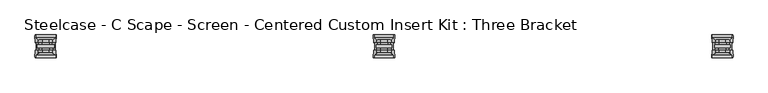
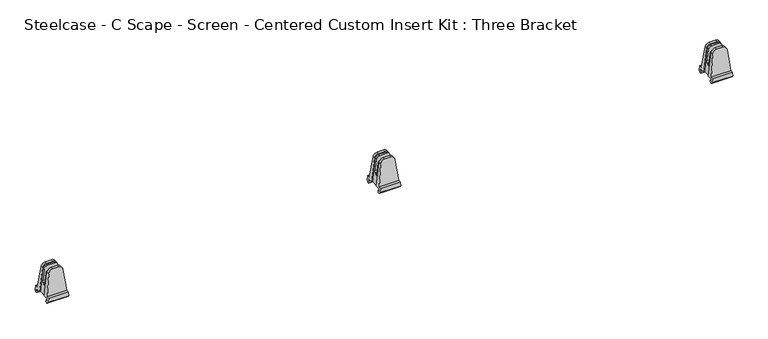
"""IFC4 building model written with IfcOpenShell, lengths in millimetres: furniture geometry, Steelcase - C Scape - Screen - Centered Custom Insert Kit : Three Bracket."""

from ifc_helpers import new_model, si_unit, frame, origin, place, context, project, spatial, circle_curve, ellipse_curve, source, transform, mapped, element, save
from ifc_brep_helpers import plane_surface, cylinder_surface, advanced_brep


def steelcase_c_scape_screen_centered_custom_insert_kit_three_306cf990(model_context):
    return source(origin(), model_context, "Body", "AdvancedBrep", [
        advanced_brep(
        [(905.1411595, -3.1752569, 793.5976353), (912.7449451, -3.1752569, 793.5976353), (920.39117, -3.1752569, 793.5976353), (920.39117, 3.17474, 793.5976353), (912.7449451, 3.17474, 793.5976353), (905.1411595, 3.17474, 793.5976353), (894.8299677, -3.1752569, 784.4759275), (887.3863978, -3.1752569, 723.9), (889.4703023, -3.1752569, 723.9), (895.7288736, -3.1752569, 783.4463283), (903.7307285, -3.1752569, 790.6512308), (923.3286053, -3.1752569, 790.6512308), (929.6441278, -3.1752569, 784.9620449), (936.0332521, -3.1752569, 723.9), (938.1459317, -3.1752569, 723.9), (930.7023617, -3.1752569, 784.4759275), (887.3863978, 10.1600734, 723.9), (938.1459317, 10.1600734, 723.9), (936.0332521, -22.2252569, 723.9), (938.1459317, -22.2250614, 723.9), (938.1459317, -35.5603917, 723.9), (887.3863978, -35.5603917, 723.9), (887.3863978, -22.2250614, 723.9), (889.4703023, -22.2250614, 723.9), (886.9177499, 10.1600734, 720.086134), (938.6145796, 10.1600734, 720.086134), (886.9177499, 6.7312129, 720.086134), (938.6145796, 6.7312129, 720.086134), (886.3871568, 6.7312129, 715.7681562), (939.1451727, 6.7312129, 715.7681562), (886.1765087, 9.1438564, 714.375), (939.3133815, 9.1438564, 714.375), (886.2159658, 11.8111354, 714.375), (939.3133815, 11.8111354, 714.375), (886.6841404, 15.6202052, 718.1850145), (938.8481891, 15.6202052, 718.1850145), (888.0324785, 15.6202052, 729.1578186), (937.499851, 15.6202052, 729.1578186), (888.0324785, 8.8135415, 729.1578186), (937.499851, 8.8135415, 729.1578186), (894.8299677, 3.9729344, 784.4759275), (930.7023617, 3.9729344, 784.4759275), (888.0324785, -34.2138598, 729.1578186), (937.499851, -34.2138598, 729.1578186), (930.7023617, -29.3732527, 784.4759275), (920.39117, -28.5750583, 793.5976353), (912.7449451, -28.5750583, 793.5976353), (905.1411595, -28.5750583, 793.5976353), (894.8299677, -29.3732527, 784.4759275), (888.0324785, -41.0205235, 729.1578186), (937.499851, -41.0205235, 729.1578186), (886.6841404, -41.0205235, 718.1850145), (938.8481891, -41.0205235, 718.1850145), (886.1765087, -37.2114537, 714.375), (939.3133815, -37.2114537, 714.375), (886.2159658, -34.5441746, 714.375), (939.3133815, -34.5441746, 714.375), (886.3871568, -32.1315312, 715.7681562), (939.1451727, -32.1315312, 715.7681562), (886.9177499, -32.1315312, 720.086134), (938.6145796, -32.1315312, 720.086134), (886.9177499, -35.5603917, 720.086134), (938.6145796, -35.5603917, 720.086134), (905.1411595, -22.2250614, 793.5976353), (912.7449451, -22.2250614, 793.5976353), (920.39117, -22.2250614, 793.5976353), (930.7023617, -22.2250614, 784.4759275), (930.1862917, -22.2250614, 779.780484), (922.4046145, -22.2250614, 786.79042), (902.8780312, -22.2250614, 786.79042), (895.3698008, -22.2250614, 780.0299789), (894.8299677, -22.2250614, 784.4759275), (902.8780312, -17.4500569, 786.79042), (922.4046145, -17.4500569, 786.79042), (930.1862917, -17.4500569, 779.780484), (933.4712458, -17.4500569, 748.3855694), (892.0438394, -17.4500569, 748.3855694), (895.3698008, -17.4500569, 780.0299789), (892.0438394, -7.9504569, 748.3855694), (895.7288736, -7.9504569, 783.4463283), (929.6441278, -7.9504569, 784.9620449), (933.4712458, -7.9504569, 748.3855694), (903.7307285, -7.9504569, 790.6512308), (923.3286053, -7.9504569, 790.6512308)],
        [
            (0, 1),
            (1, 2),
            (2, 3),
            (3, 4),
            (4, 5),
            (5, 0),
            (0, 6, circle_curve(frame((905.1411595, -3.1752569, 783.2088883), z_axis=(0.0, -1.0, 0.0), x_axis=(-1.0, 0.0, 0.0)), 10.388747)),
            (6, 7),
            (7, 8),
            (8, 9),
            (9, 10, circle_curve(frame((903.7307285, -3.1752569, 782.6052995), z_axis=(0.0, 1.0, 0.0), x_axis=(1.0, 0.0, 0.0)), 8.0459313)),
            (10, 11),
            (11, 12, circle_curve(frame((923.3286053, -3.1752569, 784.3012308), z_axis=(0.0, 1.0, 0.0), x_axis=(1.0, 0.0, 0.0)), 6.35)),
            (12, 13),
            (13, 14),
            (14, 15),
            (15, 2, circle_curve(frame((920.39117, -3.1752569, 783.2088883), z_axis=(0.0, -1.0, 0.0), x_axis=(1.0, 0.0, 0.0)), 10.388747)),
            (16, 17),
            (17, 14),
            (13, 18),
            (18, 19),
            (19, 20),
            (20, 21),
            (21, 22),
            (22, 23),
            (23, 8),
            (7, 16),
            (16, 24),
            (24, 25),
            (25, 17),
            (24, 26),
            (26, 27),
            (27, 25),
            (26, 28),
            (28, 29),
            (29, 27),
            (30, 31),
            (31, 29),
            (28, 30),
            (30, 32),
            (32, 33),
            (33, 31),
            (32, 34),
            (34, 35),
            (35, 33),
            (34, 36),
            (36, 37),
            (37, 35),
            (36, 38),
            (38, 39),
            (39, 37),
            (38, 40),
            (40, 5, ellipse_curve(frame((905.1411595, 4.0838066, 783.2088883), z_axis=(0.0, 0.9961932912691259, 0.08717182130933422), x_axis=(0.0, 0.08717182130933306, -0.9961932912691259)), 10.428445, 10.388747)),
            (3, 41, ellipse_curve(frame((920.39117, 4.0838066, 783.2088883), z_axis=(0.0, 0.9961932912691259, 0.08717182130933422), x_axis=(0.0, 0.08717182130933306, -0.9961932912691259)), 10.428445, 10.388747)),
            (41, 39),
            (42, 43),
            (43, 44),
            (44, 45, ellipse_curve(frame((920.39117, -29.4841248, 783.2088883), z_axis=(0.0, -0.9961932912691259, 0.08717182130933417), x_axis=(0.0, 0.08717182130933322, 0.996193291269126)), 10.428445, 10.388747)),
            (45, 46),
            (46, 47),
            (47, 48, ellipse_curve(frame((905.1411595, -29.4841248, 783.2088883), z_axis=(0.0, -0.9961932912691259, 0.08717182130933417), x_axis=(0.0, 0.08717182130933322, 0.996193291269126)), 10.428445, 10.388747)),
            (48, 42),
            (42, 49),
            (49, 50),
            (50, 43),
            (49, 51),
            (51, 52),
            (52, 50),
            (53, 54),
            (54, 52),
            (51, 53),
            (53, 55),
            (55, 56),
            (56, 54),
            (55, 57),
            (57, 58),
            (58, 56),
            (57, 59),
            (59, 60),
            (60, 58),
            (59, 61),
            (61, 62),
            (62, 60),
            (61, 21),
            (20, 62),
            (63, 64),
            (64, 65),
            (65, 66, circle_curve(frame((920.39117, -22.2250614, 783.2088883), z_axis=(0.0, 1.0, 0.0), x_axis=(1.0, 0.0, 0.0)), 10.388747)),
            (66, 19),
            (18, 67),
            (67, 68, circle_curve(frame((922.4046145, -22.2250614, 778.9662613), z_axis=(0.0, -1.0, 0.0), x_axis=(1.0, 0.0, 0.0)), 7.8241587)),
            (68, 69),
            (69, 70, circle_curve(frame((902.8780312, -22.2250614, 779.2408321), z_axis=(0.0, -1.0, 0.0), x_axis=(1.0, 0.0, 0.0)), 7.5495878)),
            (70, 23),
            (22, 71),
            (71, 63, circle_curve(frame((905.1411595, -22.2250614, 783.2088883), z_axis=(0.0, 1.0, 0.0), x_axis=(-1.0, 0.0, 0.0)), 10.388747)),
            (45, 65),
            (63, 47),
            (6, 40),
            (48, 71),
            (15, 41),
            (44, 66),
            (72, 73),
            (73, 74, circle_curve(frame((922.4046145, -17.4500569, 778.9662613), z_axis=(0.0, 1.0, 0.0), x_axis=(1.0, 0.0, 0.0)), 7.8241587)),
            (74, 75),
            (75, 76),
            (76, 77),
            (77, 72, circle_curve(frame((902.8780312, -17.4500569, 779.2408321), z_axis=(0.0, 1.0, 0.0), x_axis=(1.0, 0.0, 0.0)), 7.5495878)),
            (77, 70),
            (69, 72),
            (76, 78),
            (78, 79),
            (79, 9),
            (12, 80),
            (80, 81),
            (81, 75),
            (74, 67),
            (73, 68),
            (82, 79, circle_curve(frame((903.7307285, -7.9504569, 782.6052995), z_axis=(0.0, -1.0, 0.0), x_axis=(1.0, 0.0, 0.0)), 8.0459313)),
            (78, 81),
            (80, 83, circle_curve(frame((923.3286053, -7.9504569, 784.3012308), z_axis=(0.0, -1.0, 0.0), x_axis=(1.0, 0.0, 0.0)), 6.35)),
            (83, 82),
            (82, 10),
            (11, 83),
        ],
        [
            plane_surface(frame((939.3133815, 3.17474, 793.5976353), z_axis=(0.0, 0.0, 1.0), x_axis=(-1.0, 0.0, 0.0))),
            plane_surface(frame((939.3133815, -3.1752569, 793.5976353), z_axis=(0.0, -1.0, 0.0), x_axis=(-1.0, 0.0, 0.0))),
            plane_surface(frame((939.3133815, -3.1752569, 723.9), z_axis=(0.0, 0.0, -1.0), x_axis=(-1.0, 0.0, 0.0))),
            plane_surface(frame((939.3133815, 10.1600734, 723.9), z_axis=(0.0, -1.0, 0.0), x_axis=(-1.0, 0.0, 0.0))),
            plane_surface(frame((939.3133815, 10.1600734, 720.086134), z_axis=(0.0, 0.0, 1.0), x_axis=(-1.0, 0.0, 0.0))),
            plane_surface(frame((939.3133815, 6.7312129, 720.086134), z_axis=(0.0, -1.0, 0.0), x_axis=(-1.0, 0.0, 0.0))),
            plane_surface(frame((939.3133815, 6.7312129, 715.7681562), z_axis=(0.0, -0.5000581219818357, -0.8659918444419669), x_axis=(-1.0, 0.0, 0.0))),
            plane_surface(frame((939.3133815, 9.1438564, 714.375), z_axis=(0.0, 0.0, -1.0), x_axis=(-1.0, 0.0, 0.0))),
            plane_surface(frame((939.3133815, 11.8111354, 714.375), z_axis=(0.0, 0.7071944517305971, -0.7070190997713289), x_axis=(-1.0, 0.0, 0.0))),
            plane_surface(frame((939.3133815, 15.6202052, 718.1850145), z_axis=(0.0, 1.0, 0.0), x_axis=(-1.0, 0.0, 0.0))),
            plane_surface(frame((939.3133815, 15.6202052, 729.1578186), z_axis=(0.0, 0.0, 1.0), x_axis=(-1.0, 0.0, 0.0))),
            plane_surface(frame((939.3133815, 8.8135415, 729.1578186), z_axis=(0.0, 0.9961932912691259, 0.08717182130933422), x_axis=(-1.0, 0.0, 0.0))),
            plane_surface(frame((939.3133815, -28.5750583, 793.5976353), z_axis=(0.0, -0.9961932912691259, 0.08717182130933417), x_axis=(-1.0, 0.0, 0.0))),
            plane_surface(frame((939.3133815, -34.2138598, 729.1578186), z_axis=(0.0, 0.0, 1.0), x_axis=(-1.0, 0.0, 0.0))),
            plane_surface(frame((939.3133815, -41.0205235, 729.1578186), z_axis=(0.0, -1.0, 0.0), x_axis=(-1.0, 0.0, 0.0))),
            plane_surface(frame((939.3133815, -41.0205235, 718.1850145), z_axis=(0.0, -0.7071944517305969, -0.707019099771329), x_axis=(-1.0, 0.0, 0.0))),
            plane_surface(frame((939.3133815, -37.2114537, 714.375), z_axis=(0.0, 0.0, -1.0), x_axis=(-1.0, 0.0, 0.0))),
            plane_surface(frame((939.3133815, -34.5441746, 714.375), z_axis=(0.0, 0.5000581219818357, -0.8659918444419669), x_axis=(-1.0, 0.0, 0.0))),
            plane_surface(frame((939.3133815, -32.1315312, 715.7681562), z_axis=(0.0, 1.0, 0.0), x_axis=(-1.0, 0.0, 0.0))),
            plane_surface(frame((939.3133815, -32.1315312, 720.086134), z_axis=(0.0, 0.0, 1.0), x_axis=(-1.0, 0.0, 0.0))),
            plane_surface(frame((939.3133815, -35.5603917, 720.086134), z_axis=(0.0, 1.0, 0.0), x_axis=(-1.0, 0.0, 0.0))),
            plane_surface(frame((939.3133815, -22.2250614, 723.9), z_axis=(0.0, 1.0, 0.0), x_axis=(-1.0, 0.0, 0.0))),
            plane_surface(frame((939.3133815, -22.2250614, 793.5976353), z_axis=(0.0, 0.0, 1.0), x_axis=(-1.0, 0.0, 0.0))),
            plane_surface(frame((886.2159658, -43.2064559, 714.375), z_axis=(-0.9925346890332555, 0.0, 0.12196266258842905), x_axis=(0.0, 1.0, 0.0))),
            cylinder_surface(frame((905.1411595, 17.5208706, 783.2088883), z_axis=(0.0, 1.0, 0.0), x_axis=(-1.0, 0.0, 0.0)), 10.388747),
            cylinder_surface(frame((920.39117, 17.5208706, 783.2088883), z_axis=(0.0, 1.0, 0.0), x_axis=(1.0, 0.0, 0.0)), 10.388747),
            plane_surface(frame((930.7023617, -43.2064559, 784.4759275), z_axis=(0.9925346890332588, 0.0, 0.12196266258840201), x_axis=(0.0, 1.0, 0.0))),
            plane_surface(frame((910.4276191, -17.4500569, 779.2408321), z_axis=(0.0, 1.0, 0.0), x_axis=(0.0, 0.0, -1.0))),
            cylinder_surface(frame((902.8780312, -17.4500569, 779.2408321), z_axis=(0.0, -1.0, 0.0), x_axis=(1.0, 0.0, 0.0)), 7.5495878),
            plane_surface(frame((895.3698008, -22.2252569, 780.0299789), z_axis=(-0.9945218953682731, 0.0, 0.10452846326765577), x_axis=(0.0, 1.0, 0.0))),
            plane_surface(frame((936.0332521, -22.2252569, 723.9), z_axis=(0.9945704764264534, 0.0, 0.10406520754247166), x_axis=(0.0, 1.0, 0.0))),
            cylinder_surface(frame((922.4046145, -17.4500569, 778.9662613), z_axis=(0.0, -1.0, 0.0), x_axis=(1.0, 0.0, 0.0)), 7.8241587),
            plane_surface(frame((922.4046145, -22.2252569, 786.79042), z_axis=(0.0, 0.0, 1.0), x_axis=(0.0, 1.0, 0.0))),
            plane_surface(frame((911.7766598, -7.9504569, 782.6052995), z_axis=(0.0, -1.0, 0.0), x_axis=(0.0, 0.0, 1.0))),
            cylinder_surface(frame((903.7307285, -3.1752569, 782.6052995), z_axis=(0.0, -1.0, 0.0), x_axis=(1.0, 0.0, 0.0)), 8.0459313),
            cylinder_surface(frame((923.3286053, -3.1752569, 784.3012308), z_axis=(0.0, -1.0, 0.0), x_axis=(1.0, 0.0, 0.0)), 6.35),
            plane_surface(frame((923.3286053, -7.9504569, 790.6512308), z_axis=(0.0, 0.0, 1.0), x_axis=(0.0, 1.0, 0.0))),
            plane_surface(frame((933.4712458, -17.4500569, 748.3855694), z_axis=(0.0, 0.0, 1.0), x_axis=(0.0, 1.0, 0.0))),
        ],
        [
            (0, [[1, 2, 3, 4, 5, 6]]),
            (1, [[-1, 7, 8, 9, 10, 11, 12, 13, 14, 15, 16, 17, -2]]),
            (2, [[18, 19, -15, 20, 21, 22, 23, 24, 25, 26, -9, 27]]),
            (3, [[-18, 28, 29, 30]]),
            (4, [[-29, 31, 32, 33]]),
            (5, [[-32, 34, 35, 36]]),
            (6, [[37, 38, -35, 39]]),
            (7, [[-37, 40, 41, 42]]),
            (8, [[-41, 43, 44, 45]]),
            (9, [[-44, 46, 47, 48]]),
            (10, [[-47, 49, 50, 51]]),
            (11, [[-50, 52, 53, -5, -4, 54, 55]]),
            (12, [[56, 57, 58, 59, 60, 61, 62]]),
            (13, [[-56, 63, 64, 65]]),
            (14, [[-64, 66, 67, 68]]),
            (15, [[69, 70, -67, 71]]),
            (16, [[-69, 72, 73, 74]]),
            (17, [[-73, 75, 76, 77]]),
            (18, [[-76, 78, 79, 80]]),
            (19, [[-79, 81, 82, 83]]),
            (20, [[-82, 84, -23, 85]]),
            (21, [[86, 87, 88, 89, -21, 90, 91, 92, 93, 94, -25, 95, 96]]),
            (22, [[-59, 97, -87, -86, 98, -60]]),
            (23, [[99, -52, -49, -46, -43, -40, -39, -34, -31, -28, -27, -8]]),
            (23, [[100, -95, -24, -84, -81, -78, -75, -72, -71, -66, -63, -62]]),
            (24, [[-99, -7, -6, -53]]),
            (24, [[-100, -61, -98, -96]]),
            (25, [[101, -54, -3, -17]]),
            (25, [[102, -88, -97, -58]]),
            (26, [[-101, -16, -19, -30, -33, -36, -38, -42, -45, -48, -51, -55]]),
            (26, [[-102, -57, -65, -68, -70, -74, -77, -80, -83, -85, -22, -89]]),
            (27, [[103, 104, 105, 106, 107, 108]]),
            (28, [[-108, 109, -93, 110]]),
            (29, [[-109, -107, 111, 112, 113, -10, -26, -94]]),
            (30, [[-20, -14, 114, 115, 116, -105, 117, -90]]),
            (31, [[-104, 118, -91, -117]]),
            (32, [[-103, -110, -92, -118]]),
            (33, [[119, -112, 120, -115, 121, 122]]),
            (34, [[-119, 123, -11, -113]]),
            (35, [[-121, -114, -13, 124]]),
            (36, [[-122, -124, -12, -123]]),
            (37, [[-111, -106, -116, -120]]),
        ],
    ),
        advanced_brep(
        [(1743.2649563, -3.1752569, 793.5976353), (1750.8687419, -3.1752569, 793.5976353), (1758.5149668, -3.1752569, 793.5976353), (1758.5149668, 3.17474, 793.5976353), (1750.8687419, 3.17474, 793.5976353), (1743.2649563, 3.17474, 793.5976353), (1732.9537645, -3.1752569, 784.4759275), (1725.5101946, -3.1752569, 723.9), (1727.5940991, -3.1752569, 723.9), (1733.8526704, -3.1752569, 783.4463283), (1741.8545253, -3.1752569, 790.6512308), (1761.4524021, -3.1752569, 790.6512308), (1767.7679246, -3.1752569, 784.9620449), (1774.1570489, -3.1752569, 723.9), (1776.2697285, -3.1752569, 723.9), (1768.8261585, -3.1752569, 784.4759275), (1725.5101946, 10.1600734, 723.9), (1776.2697285, 10.1600734, 723.9), (1774.1570489, -22.2252569, 723.9), (1776.2697285, -22.2250614, 723.9), (1776.2697285, -35.5603917, 723.9), (1725.5101946, -35.5603917, 723.9), (1725.5101946, -22.2250614, 723.9), (1727.5940991, -22.2250614, 723.9), (1725.0415467, 10.1600734, 720.086134), (1776.7383764, 10.1600734, 720.086134), (1725.0415467, 6.7312129, 720.086134), (1776.7383764, 6.7312129, 720.086134), (1724.5109536, 6.7312129, 715.7681562), (1777.2689695, 6.7312129, 715.7681562), (1724.3003055, 9.1438564, 714.375), (1777.4371783, 9.1438564, 714.375), (1724.3397626, 11.8111354, 714.375), (1777.4371783, 11.8111354, 714.375), (1724.8079371, 15.6202052, 718.1850145), (1776.9719859, 15.6202052, 718.1850145), (1726.1562753, 15.6202052, 729.1578186), (1775.6236478, 15.6202052, 729.1578186), (1726.1562753, 8.8135415, 729.1578186), (1775.6236478, 8.8135415, 729.1578186), (1732.9537645, 3.9729344, 784.4759275), (1768.8261585, 3.9729344, 784.4759275), (1726.1562753, -34.2138598, 729.1578186), (1775.6236478, -34.2138598, 729.1578186), (1768.8261585, -29.3732527, 784.4759275), (1758.5149668, -28.5750583, 793.5976353), (1750.8687419, -28.5750583, 793.5976353), (1743.2649563, -28.5750583, 793.5976353), (1732.9537645, -29.3732527, 784.4759275), (1726.1562753, -41.0205235, 729.1578186), (1775.6236478, -41.0205235, 729.1578186), (1724.8079371, -41.0205235, 718.1850145), (1776.9719859, -41.0205235, 718.1850145), (1724.3003055, -37.2114537, 714.375), (1777.4371783, -37.2114537, 714.375), (1724.3397626, -34.5441746, 714.375), (1777.4371783, -34.5441746, 714.375), (1724.5109536, -32.1315312, 715.7681562), (1777.2689695, -32.1315312, 715.7681562), (1725.0415467, -32.1315312, 720.086134), (1776.7383764, -32.1315312, 720.086134), (1725.0415467, -35.5603917, 720.086134), (1776.7383764, -35.5603917, 720.086134), (1743.2649563, -22.2250614, 793.5976353), (1750.8687419, -22.2250614, 793.5976353), (1758.5149668, -22.2250614, 793.5976353), (1768.8261585, -22.2250614, 784.4759275), (1768.3100885, -22.2250614, 779.780484), (1760.5284113, -22.2250614, 786.79042), (1741.001828, -22.2250614, 786.79042), (1733.4935976, -22.2250614, 780.0299789), (1732.9537645, -22.2250614, 784.4759275), (1741.001828, -17.4500569, 786.79042), (1760.5284113, -17.4500569, 786.79042), (1768.3100885, -17.4500569, 779.780484), (1771.5950426, -17.4500569, 748.3855694), (1730.1676361, -17.4500569, 748.3855694), (1733.4935976, -17.4500569, 780.0299789), (1730.1676361, -7.9504569, 748.3855694), (1733.8526704, -7.9504569, 783.4463283), (1767.7679246, -7.9504569, 784.9620449), (1771.5950426, -7.9504569, 748.3855694), (1741.8545253, -7.9504569, 790.6512308), (1761.4524021, -7.9504569, 790.6512308)],
        [
            (0, 1),
            (1, 2),
            (2, 3),
            (3, 4),
            (4, 5),
            (5, 0),
            (0, 6, circle_curve(frame((1743.2649563, -3.1752569, 783.2088883), z_axis=(0.0, -1.0, 0.0), x_axis=(-1.0, 0.0, 0.0)), 10.388747)),
            (6, 7),
            (7, 8),
            (8, 9),
            (9, 10, circle_curve(frame((1741.8545253, -3.1752569, 782.6052995), z_axis=(0.0, 1.0, 0.0), x_axis=(1.0, 0.0, 0.0)), 8.0459313)),
            (10, 11),
            (11, 12, circle_curve(frame((1761.4524021, -3.1752569, 784.3012308), z_axis=(0.0, 1.0, 0.0), x_axis=(1.0, 0.0, 0.0)), 6.35)),
            (12, 13),
            (13, 14),
            (14, 15),
            (15, 2, circle_curve(frame((1758.5149668, -3.1752569, 783.2088883), z_axis=(0.0, -1.0, 0.0), x_axis=(1.0, 0.0, 0.0)), 10.388747)),
            (16, 17),
            (17, 14),
            (13, 18),
            (18, 19),
            (19, 20),
            (20, 21),
            (21, 22),
            (22, 23),
            (23, 8),
            (7, 16),
            (16, 24),
            (24, 25),
            (25, 17),
            (24, 26),
            (26, 27),
            (27, 25),
            (26, 28),
            (28, 29),
            (29, 27),
            (30, 31),
            (31, 29),
            (28, 30),
            (30, 32),
            (32, 33),
            (33, 31),
            (32, 34),
            (34, 35),
            (35, 33),
            (34, 36),
            (36, 37),
            (37, 35),
            (36, 38),
            (38, 39),
            (39, 37),
            (38, 40),
            (40, 5, ellipse_curve(frame((1743.2649563, 4.0838066, 783.2088883), z_axis=(0.0, 0.9961932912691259, 0.08717182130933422), x_axis=(0.0, 0.08717182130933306, -0.9961932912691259)), 10.428445, 10.388747)),
            (3, 41, ellipse_curve(frame((1758.5149668, 4.0838066, 783.2088883), z_axis=(0.0, 0.9961932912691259, 0.08717182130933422), x_axis=(0.0, 0.08717182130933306, -0.9961932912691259)), 10.428445, 10.388747)),
            (41, 39),
            (42, 43),
            (43, 44),
            (44, 45, ellipse_curve(frame((1758.5149668, -29.4841248, 783.2088883), z_axis=(0.0, -0.9961932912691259, 0.08717182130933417), x_axis=(0.0, 0.08717182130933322, 0.996193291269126)), 10.428445, 10.388747)),
            (45, 46),
            (46, 47),
            (47, 48, ellipse_curve(frame((1743.2649563, -29.4841248, 783.2088883), z_axis=(0.0, -0.9961932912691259, 0.08717182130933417), x_axis=(0.0, 0.08717182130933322, 0.996193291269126)), 10.428445, 10.388747)),
            (48, 42),
            (42, 49),
            (49, 50),
            (50, 43),
            (49, 51),
            (51, 52),
            (52, 50),
            (53, 54),
            (54, 52),
            (51, 53),
            (53, 55),
            (55, 56),
            (56, 54),
            (55, 57),
            (57, 58),
            (58, 56),
            (57, 59),
            (59, 60),
            (60, 58),
            (59, 61),
            (61, 62),
            (62, 60),
            (61, 21),
            (20, 62),
            (63, 64),
            (64, 65),
            (65, 66, circle_curve(frame((1758.5149668, -22.2250614, 783.2088883), z_axis=(0.0, 1.0, 0.0), x_axis=(1.0, 0.0, 0.0)), 10.388747)),
            (66, 19),
            (18, 67),
            (67, 68, circle_curve(frame((1760.5284113, -22.2250614, 778.9662613), z_axis=(0.0, -1.0, 0.0), x_axis=(1.0, 0.0, 0.0)), 7.8241587)),
            (68, 69),
            (69, 70, circle_curve(frame((1741.001828, -22.2250614, 779.2408321), z_axis=(0.0, -1.0, 0.0), x_axis=(1.0, 0.0, 0.0)), 7.5495878)),
            (70, 23),
            (22, 71),
            (71, 63, circle_curve(frame((1743.2649563, -22.2250614, 783.2088883), z_axis=(0.0, 1.0, 0.0), x_axis=(-1.0, 0.0, 0.0)), 10.388747)),
            (45, 65),
            (63, 47),
            (6, 40),
            (48, 71),
            (15, 41),
            (44, 66),
            (72, 73),
            (73, 74, circle_curve(frame((1760.5284113, -17.4500569, 778.9662613), z_axis=(0.0, 1.0, 0.0), x_axis=(1.0, 0.0, 0.0)), 7.8241587)),
            (74, 75),
            (75, 76),
            (76, 77),
            (77, 72, circle_curve(frame((1741.001828, -17.4500569, 779.2408321), z_axis=(0.0, 1.0, 0.0), x_axis=(1.0, 0.0, 0.0)), 7.5495878)),
            (77, 70),
            (69, 72),
            (76, 78),
            (78, 79),
            (79, 9),
            (12, 80),
            (80, 81),
            (81, 75),
            (74, 67),
            (73, 68),
            (82, 79, circle_curve(frame((1741.8545253, -7.9504569, 782.6052995), z_axis=(0.0, -1.0, 0.0), x_axis=(1.0, 0.0, 0.0)), 8.0459313)),
            (78, 81),
            (80, 83, circle_curve(frame((1761.4524021, -7.9504569, 784.3012308), z_axis=(0.0, -1.0, 0.0), x_axis=(1.0, 0.0, 0.0)), 6.35)),
            (83, 82),
            (82, 10),
            (11, 83),
        ],
        [
            plane_surface(frame((1777.4371783, 3.17474, 793.5976353), z_axis=(0.0, 0.0, 1.0), x_axis=(-1.0, 0.0, 0.0))),
            plane_surface(frame((1777.4371783, -3.1752569, 793.5976353), z_axis=(0.0, -1.0, 0.0), x_axis=(-1.0, 0.0, 0.0))),
            plane_surface(frame((1777.4371783, -3.1752569, 723.9), z_axis=(0.0, 0.0, -1.0), x_axis=(-1.0, 0.0, 0.0))),
            plane_surface(frame((1777.4371783, 10.1600734, 723.9), z_axis=(0.0, -1.0, 0.0), x_axis=(-1.0, 0.0, 0.0))),
            plane_surface(frame((1777.4371783, 10.1600734, 720.086134), z_axis=(0.0, 0.0, 1.0), x_axis=(-1.0, 0.0, 0.0))),
            plane_surface(frame((1777.4371783, 6.7312129, 720.086134), z_axis=(0.0, -1.0, 0.0), x_axis=(-1.0, 0.0, 0.0))),
            plane_surface(frame((1777.4371783, 6.7312129, 715.7681562), z_axis=(0.0, -0.5000581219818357, -0.8659918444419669), x_axis=(-1.0, 0.0, 0.0))),
            plane_surface(frame((1777.4371783, 9.1438564, 714.375), z_axis=(0.0, 0.0, -1.0), x_axis=(-1.0, 0.0, 0.0))),
            plane_surface(frame((1777.4371783, 11.8111354, 714.375), z_axis=(0.0, 0.7071944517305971, -0.7070190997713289), x_axis=(-1.0, 0.0, 0.0))),
            plane_surface(frame((1777.4371783, 15.6202052, 718.1850145), z_axis=(0.0, 1.0, 0.0), x_axis=(-1.0, 0.0, 0.0))),
            plane_surface(frame((1777.4371783, 15.6202052, 729.1578186), z_axis=(0.0, 0.0, 1.0), x_axis=(-1.0, 0.0, 0.0))),
            plane_surface(frame((1777.4371783, 8.8135415, 729.1578186), z_axis=(0.0, 0.9961932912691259, 0.08717182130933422), x_axis=(-1.0, 0.0, 0.0))),
            plane_surface(frame((1777.4371783, -28.5750583, 793.5976353), z_axis=(0.0, -0.9961932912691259, 0.08717182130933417), x_axis=(-1.0, 0.0, 0.0))),
            plane_surface(frame((1777.4371783, -34.2138598, 729.1578186), z_axis=(0.0, 0.0, 1.0), x_axis=(-1.0, 0.0, 0.0))),
            plane_surface(frame((1777.4371783, -41.0205235, 729.1578186), z_axis=(0.0, -1.0, 0.0), x_axis=(-1.0, 0.0, 0.0))),
            plane_surface(frame((1777.4371783, -41.0205235, 718.1850145), z_axis=(0.0, -0.7071944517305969, -0.707019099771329), x_axis=(-1.0, 0.0, 0.0))),
            plane_surface(frame((1777.4371783, -37.2114537, 714.375), z_axis=(0.0, 0.0, -1.0), x_axis=(-1.0, 0.0, 0.0))),
            plane_surface(frame((1777.4371783, -34.5441746, 714.375), z_axis=(0.0, 0.5000581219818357, -0.8659918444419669), x_axis=(-1.0, 0.0, 0.0))),
            plane_surface(frame((1777.4371783, -32.1315312, 715.7681562), z_axis=(0.0, 1.0, 0.0), x_axis=(-1.0, 0.0, 0.0))),
            plane_surface(frame((1777.4371783, -32.1315312, 720.086134), z_axis=(0.0, 0.0, 1.0), x_axis=(-1.0, 0.0, 0.0))),
            plane_surface(frame((1777.4371783, -35.5603917, 720.086134), z_axis=(0.0, 1.0, 0.0), x_axis=(-1.0, 0.0, 0.0))),
            plane_surface(frame((1777.4371783, -22.2250614, 723.9), z_axis=(0.0, 1.0, 0.0), x_axis=(-1.0, 0.0, 0.0))),
            plane_surface(frame((1777.4371783, -22.2250614, 793.5976353), z_axis=(0.0, 0.0, 1.0), x_axis=(-1.0, 0.0, 0.0))),
            plane_surface(frame((1724.3397626, -43.2064559, 714.375), z_axis=(-0.9925346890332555, 0.0, 0.12196266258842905), x_axis=(0.0, 1.0, 0.0))),
            cylinder_surface(frame((1743.2649563, 17.5208706, 783.2088883), z_axis=(0.0, 1.0, 0.0), x_axis=(-1.0, 0.0, 0.0)), 10.388747),
            cylinder_surface(frame((1758.5149668, 17.5208706, 783.2088883), z_axis=(0.0, 1.0, 0.0), x_axis=(1.0, 0.0, 0.0)), 10.388747),
            plane_surface(frame((1768.8261585, -43.2064559, 784.4759275), z_axis=(0.9925346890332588, 0.0, 0.12196266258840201), x_axis=(0.0, 1.0, 0.0))),
            plane_surface(frame((1748.5514158, -17.4500569, 779.2408321), z_axis=(0.0, 1.0, 0.0), x_axis=(0.0, 0.0, -1.0))),
            cylinder_surface(frame((1741.001828, -17.4500569, 779.2408321), z_axis=(0.0, -1.0, 0.0), x_axis=(1.0, 0.0, 0.0)), 7.5495878),
            plane_surface(frame((1733.4935976, -22.2252569, 780.0299789), z_axis=(-0.9945218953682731, 0.0, 0.10452846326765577), x_axis=(0.0, 1.0, 0.0))),
            plane_surface(frame((1774.1570489, -22.2252569, 723.9), z_axis=(0.9945704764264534, 0.0, 0.10406520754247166), x_axis=(0.0, 1.0, 0.0))),
            cylinder_surface(frame((1760.5284113, -17.4500569, 778.9662613), z_axis=(0.0, -1.0, 0.0), x_axis=(1.0, 0.0, 0.0)), 7.8241587),
            plane_surface(frame((1760.5284113, -22.2252569, 786.79042), z_axis=(0.0, 0.0, 1.0), x_axis=(0.0, 1.0, 0.0))),
            plane_surface(frame((1749.9004566, -7.9504569, 782.6052995), z_axis=(0.0, -1.0, 0.0), x_axis=(0.0, 0.0, 1.0))),
            cylinder_surface(frame((1741.8545253, -3.1752569, 782.6052995), z_axis=(0.0, -1.0, 0.0), x_axis=(1.0, 0.0, 0.0)), 8.0459313),
            cylinder_surface(frame((1761.4524021, -3.1752569, 784.3012308), z_axis=(0.0, -1.0, 0.0), x_axis=(1.0, 0.0, 0.0)), 6.35),
            plane_surface(frame((1761.4524021, -7.9504569, 790.6512308), z_axis=(0.0, 0.0, 1.0), x_axis=(0.0, 1.0, 0.0))),
            plane_surface(frame((1771.5950426, -17.4500569, 748.3855694), z_axis=(0.0, 0.0, 1.0), x_axis=(0.0, 1.0, 0.0))),
        ],
        [
            (0, [[1, 2, 3, 4, 5, 6]]),
            (1, [[-1, 7, 8, 9, 10, 11, 12, 13, 14, 15, 16, 17, -2]]),
            (2, [[18, 19, -15, 20, 21, 22, 23, 24, 25, 26, -9, 27]]),
            (3, [[-18, 28, 29, 30]]),
            (4, [[-29, 31, 32, 33]]),
            (5, [[-32, 34, 35, 36]]),
            (6, [[37, 38, -35, 39]]),
            (7, [[-37, 40, 41, 42]]),
            (8, [[-41, 43, 44, 45]]),
            (9, [[-44, 46, 47, 48]]),
            (10, [[-47, 49, 50, 51]]),
            (11, [[-50, 52, 53, -5, -4, 54, 55]]),
            (12, [[56, 57, 58, 59, 60, 61, 62]]),
            (13, [[-56, 63, 64, 65]]),
            (14, [[-64, 66, 67, 68]]),
            (15, [[69, 70, -67, 71]]),
            (16, [[-69, 72, 73, 74]]),
            (17, [[-73, 75, 76, 77]]),
            (18, [[-76, 78, 79, 80]]),
            (19, [[-79, 81, 82, 83]]),
            (20, [[-82, 84, -23, 85]]),
            (21, [[86, 87, 88, 89, -21, 90, 91, 92, 93, 94, -25, 95, 96]]),
            (22, [[-59, 97, -87, -86, 98, -60]]),
            (23, [[99, -52, -49, -46, -43, -40, -39, -34, -31, -28, -27, -8]]),
            (23, [[100, -95, -24, -84, -81, -78, -75, -72, -71, -66, -63, -62]]),
            (24, [[-99, -7, -6, -53]]),
            (24, [[-100, -61, -98, -96]]),
            (25, [[101, -54, -3, -17]]),
            (25, [[102, -88, -97, -58]]),
            (26, [[-101, -16, -19, -30, -33, -36, -38, -42, -45, -48, -51, -55]]),
            (26, [[-102, -57, -65, -68, -70, -74, -77, -80, -83, -85, -22, -89]]),
            (27, [[103, 104, 105, 106, 107, 108]]),
            (28, [[-108, 109, -93, 110]]),
            (29, [[-109, -107, 111, 112, 113, -10, -26, -94]]),
            (30, [[-20, -14, 114, 115, 116, -105, 117, -90]]),
            (31, [[-104, 118, -91, -117]]),
            (32, [[-103, -110, -92, -118]]),
            (33, [[119, -112, 120, -115, 121, 122]]),
            (34, [[-119, 123, -11, -113]]),
            (35, [[-121, -114, -13, 124]]),
            (36, [[-122, -124, -12, -123]]),
            (37, [[-111, -106, -116, -120]]),
        ],
    ),
        advanced_brep(
        [(67.0173627, -3.1752569, 793.5976353), (74.6211483, -3.1752569, 793.5976353), (82.2673732, -3.1752569, 793.5976353), (82.2673732, 3.17474, 793.5976353), (74.6211483, 3.17474, 793.5976353), (67.0173627, 3.17474, 793.5976353), (56.706171, -3.1752569, 784.4759275), (49.262601, -3.1752569, 723.9), (51.3465055, -3.1752569, 723.9), (57.6050768, -3.1752569, 783.4463283), (65.6069317, -3.1752569, 790.6512308), (85.2048085, -3.1752569, 790.6512308), (91.520331, -3.1752569, 784.9620449), (97.9094553, -3.1752569, 723.9), (100.0221349, -3.1752569, 723.9), (92.578565, -3.1752569, 784.4759275), (49.262601, 10.1600734, 723.9), (100.0221349, 10.1600734, 723.9), (97.9094553, -22.2252569, 723.9), (100.0221349, -22.2250614, 723.9), (100.0221349, -35.5603917, 723.9), (49.262601, -35.5603917, 723.9), (49.262601, -22.2250614, 723.9), (51.3465055, -22.2250614, 723.9), (48.7939531, 10.1600734, 720.086134), (100.4907828, 10.1600734, 720.086134), (48.7939531, 6.7312129, 720.086134), (100.4907828, 6.7312129, 720.086134), (48.26336, 6.7312129, 715.7681562), (101.0213759, 6.7312129, 715.7681562), (48.0527119, 9.1438564, 714.375), (101.1895848, 9.1438564, 714.375), (48.092169, 11.8111354, 714.375), (101.1895848, 11.8111354, 714.375), (48.5603436, 15.6202052, 718.1850145), (100.7243923, 15.6202052, 718.1850145), (49.9086817, 15.6202052, 729.1578186), (99.3760542, 15.6202052, 729.1578186), (49.9086817, 8.8135415, 729.1578186), (99.3760542, 8.8135415, 729.1578186), (56.706171, 3.9729344, 784.4759275), (92.578565, 3.9729344, 784.4759275), (49.9086817, -34.2138598, 729.1578186), (99.3760542, -34.2138598, 729.1578186), (92.578565, -29.3732527, 784.4759275), (82.2673732, -28.5750583, 793.5976353), (74.6211483, -28.5750583, 793.5976353), (67.0173627, -28.5750583, 793.5976353), (56.706171, -29.3732527, 784.4759275), (49.9086817, -41.0205235, 729.1578186), (99.3760542, -41.0205235, 729.1578186), (48.5603436, -41.0205235, 718.1850145), (100.7243923, -41.0205235, 718.1850145), (48.0527119, -37.2114537, 714.375), (101.1895848, -37.2114537, 714.375), (48.092169, -34.5441746, 714.375), (101.1895848, -34.5441746, 714.375), (48.26336, -32.1315312, 715.7681562), (101.0213759, -32.1315312, 715.7681562), (48.7939531, -32.1315312, 720.086134), (100.4907828, -32.1315312, 720.086134), (48.7939531, -35.5603917, 720.086134), (100.4907828, -35.5603917, 720.086134), (67.0173627, -22.2250614, 793.5976353), (74.6211483, -22.2250614, 793.5976353), (82.2673732, -22.2250614, 793.5976353), (92.578565, -22.2250614, 784.4759275), (92.0624949, -22.2250614, 779.780484), (84.2808177, -22.2250614, 786.79042), (64.7542344, -22.2250614, 786.79042), (57.246004, -22.2250614, 780.0299789), (56.706171, -22.2250614, 784.4759275), (64.7542344, -17.4500569, 786.79042), (84.2808177, -17.4500569, 786.79042), (92.0624949, -17.4500569, 779.780484), (95.347449, -17.4500569, 748.3855694), (53.9200426, -17.4500569, 748.3855694), (57.246004, -17.4500569, 780.0299789), (53.9200426, -7.9504569, 748.3855694), (57.6050768, -7.9504569, 783.4463283), (91.520331, -7.9504569, 784.9620449), (95.347449, -7.9504569, 748.3855694), (65.6069317, -7.9504569, 790.6512308), (85.2048085, -7.9504569, 790.6512308)],
        [
            (0, 1),
            (1, 2),
            (2, 3),
            (3, 4),
            (4, 5),
            (5, 0),
            (0, 6, circle_curve(frame((67.0173627, -3.1752569, 783.2088883), z_axis=(0.0, -1.0, 0.0), x_axis=(-1.0, 0.0, 0.0)), 10.388747)),
            (6, 7),
            (7, 8),
            (8, 9),
            (9, 10, circle_curve(frame((65.6069317, -3.1752569, 782.6052995), z_axis=(0.0, 1.0, 0.0), x_axis=(1.0, 0.0, 0.0)), 8.0459313)),
            (10, 11),
            (11, 12, circle_curve(frame((85.2048085, -3.1752569, 784.3012308), z_axis=(0.0, 1.0, 0.0), x_axis=(1.0, 0.0, 0.0)), 6.35)),
            (12, 13),
            (13, 14),
            (14, 15),
            (15, 2, circle_curve(frame((82.2673732, -3.1752569, 783.2088883), z_axis=(0.0, -1.0, 0.0), x_axis=(1.0, 0.0, 0.0)), 10.388747)),
            (16, 17),
            (17, 14),
            (13, 18),
            (18, 19),
            (19, 20),
            (20, 21),
            (21, 22),
            (22, 23),
            (23, 8),
            (7, 16),
            (16, 24),
            (24, 25),
            (25, 17),
            (24, 26),
            (26, 27),
            (27, 25),
            (26, 28),
            (28, 29),
            (29, 27),
            (30, 31),
            (31, 29),
            (28, 30),
            (30, 32),
            (32, 33),
            (33, 31),
            (32, 34),
            (34, 35),
            (35, 33),
            (34, 36),
            (36, 37),
            (37, 35),
            (36, 38),
            (38, 39),
            (39, 37),
            (38, 40),
            (40, 5, ellipse_curve(frame((67.0173627, 4.0838066, 783.2088883), z_axis=(0.0, 0.9961932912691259, 0.08717182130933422), x_axis=(0.0, 0.08717182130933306, -0.9961932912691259)), 10.428445, 10.388747)),
            (3, 41, ellipse_curve(frame((82.2673732, 4.0838066, 783.2088883), z_axis=(0.0, 0.9961932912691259, 0.08717182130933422), x_axis=(0.0, 0.08717182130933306, -0.9961932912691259)), 10.428445, 10.388747)),
            (41, 39),
            (42, 43),
            (43, 44),
            (44, 45, ellipse_curve(frame((82.2673732, -29.4841248, 783.2088883), z_axis=(0.0, -0.9961932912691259, 0.08717182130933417), x_axis=(0.0, 0.08717182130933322, 0.996193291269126)), 10.428445, 10.388747)),
            (45, 46),
            (46, 47),
            (47, 48, ellipse_curve(frame((67.0173627, -29.4841248, 783.2088883), z_axis=(0.0, -0.9961932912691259, 0.08717182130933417), x_axis=(0.0, 0.08717182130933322, 0.996193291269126)), 10.428445, 10.388747)),
            (48, 42),
            (42, 49),
            (49, 50),
            (50, 43),
            (49, 51),
            (51, 52),
            (52, 50),
            (53, 54),
            (54, 52),
            (51, 53),
            (53, 55),
            (55, 56),
            (56, 54),
            (55, 57),
            (57, 58),
            (58, 56),
            (57, 59),
            (59, 60),
            (60, 58),
            (59, 61),
            (61, 62),
            (62, 60),
            (61, 21),
            (20, 62),
            (63, 64),
            (64, 65),
            (65, 66, circle_curve(frame((82.2673732, -22.2250614, 783.2088883), z_axis=(0.0, 1.0, 0.0), x_axis=(1.0, 0.0, 0.0)), 10.388747)),
            (66, 19),
            (18, 67),
            (67, 68, circle_curve(frame((84.2808177, -22.2250614, 778.9662613), z_axis=(0.0, -1.0, 0.0), x_axis=(1.0, 0.0, 0.0)), 7.8241587)),
            (68, 69),
            (69, 70, circle_curve(frame((64.7542344, -22.2250614, 779.2408321), z_axis=(0.0, -1.0, 0.0), x_axis=(1.0, 0.0, 0.0)), 7.5495878)),
            (70, 23),
            (22, 71),
            (71, 63, circle_curve(frame((67.0173627, -22.2250614, 783.2088883), z_axis=(0.0, 1.0, 0.0), x_axis=(-1.0, 0.0, 0.0)), 10.388747)),
            (45, 65),
            (63, 47),
            (6, 40),
            (48, 71),
            (15, 41),
            (44, 66),
            (72, 73),
            (73, 74, circle_curve(frame((84.2808177, -17.4500569, 778.9662613), z_axis=(0.0, 1.0, 0.0), x_axis=(1.0, 0.0, 0.0)), 7.8241587)),
            (74, 75),
            (75, 76),
            (76, 77),
            (77, 72, circle_curve(frame((64.7542344, -17.4500569, 779.2408321), z_axis=(0.0, 1.0, 0.0), x_axis=(1.0, 0.0, 0.0)), 7.5495878)),
            (77, 70),
            (69, 72),
            (76, 78),
            (78, 79),
            (79, 9),
            (12, 80),
            (80, 81),
            (81, 75),
            (74, 67),
            (73, 68),
            (82, 79, circle_curve(frame((65.6069317, -7.9504569, 782.6052995), z_axis=(0.0, -1.0, 0.0), x_axis=(1.0, 0.0, 0.0)), 8.0459313)),
            (78, 81),
            (80, 83, circle_curve(frame((85.2048085, -7.9504569, 784.3012308), z_axis=(0.0, -1.0, 0.0), x_axis=(1.0, 0.0, 0.0)), 6.35)),
            (83, 82),
            (82, 10),
            (11, 83),
        ],
        [
            plane_surface(frame((101.1895848, 3.17474, 793.5976353), z_axis=(0.0, 0.0, 1.0), x_axis=(-1.0, 0.0, 0.0))),
            plane_surface(frame((101.1895848, -3.1752569, 793.5976353), z_axis=(0.0, -1.0, 0.0), x_axis=(-1.0, 0.0, 0.0))),
            plane_surface(frame((101.1895848, -3.1752569, 723.9), z_axis=(0.0, 0.0, -1.0), x_axis=(-1.0, 0.0, 0.0))),
            plane_surface(frame((101.1895848, 10.1600734, 723.9), z_axis=(0.0, -1.0, 0.0), x_axis=(-1.0, 0.0, 0.0))),
            plane_surface(frame((101.1895848, 10.1600734, 720.086134), z_axis=(0.0, 0.0, 1.0), x_axis=(-1.0, 0.0, 0.0))),
            plane_surface(frame((101.1895848, 6.7312129, 720.086134), z_axis=(0.0, -1.0, 0.0), x_axis=(-1.0, 0.0, 0.0))),
            plane_surface(frame((101.1895848, 6.7312129, 715.7681562), z_axis=(0.0, -0.5000581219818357, -0.8659918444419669), x_axis=(-1.0, 0.0, 0.0))),
            plane_surface(frame((101.1895848, 9.1438564, 714.375), z_axis=(0.0, 0.0, -1.0), x_axis=(-1.0, 0.0, 0.0))),
            plane_surface(frame((101.1895848, 11.8111354, 714.375), z_axis=(0.0, 0.7071944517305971, -0.7070190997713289), x_axis=(-1.0, 0.0, 0.0))),
            plane_surface(frame((101.1895848, 15.6202052, 718.1850145), z_axis=(0.0, 1.0, 0.0), x_axis=(-1.0, 0.0, 0.0))),
            plane_surface(frame((101.1895848, 15.6202052, 729.1578186), z_axis=(0.0, 0.0, 1.0), x_axis=(-1.0, 0.0, 0.0))),
            plane_surface(frame((101.1895848, 8.8135415, 729.1578186), z_axis=(0.0, 0.9961932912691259, 0.08717182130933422), x_axis=(-1.0, 0.0, 0.0))),
            plane_surface(frame((101.1895848, -28.5750583, 793.5976353), z_axis=(0.0, -0.9961932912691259, 0.08717182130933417), x_axis=(-1.0, 0.0, 0.0))),
            plane_surface(frame((101.1895848, -34.2138598, 729.1578186), z_axis=(0.0, 0.0, 1.0), x_axis=(-1.0, 0.0, 0.0))),
            plane_surface(frame((101.1895848, -41.0205235, 729.1578186), z_axis=(0.0, -1.0, 0.0), x_axis=(-1.0, 0.0, 0.0))),
            plane_surface(frame((101.1895848, -41.0205235, 718.1850145), z_axis=(0.0, -0.7071944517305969, -0.707019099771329), x_axis=(-1.0, 0.0, 0.0))),
            plane_surface(frame((101.1895848, -37.2114537, 714.375), z_axis=(0.0, 0.0, -1.0), x_axis=(-1.0, 0.0, 0.0))),
            plane_surface(frame((101.1895848, -34.5441746, 714.375), z_axis=(0.0, 0.5000581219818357, -0.8659918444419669), x_axis=(-1.0, 0.0, 0.0))),
            plane_surface(frame((101.1895848, -32.1315312, 715.7681562), z_axis=(0.0, 1.0, 0.0), x_axis=(-1.0, 0.0, 0.0))),
            plane_surface(frame((101.1895848, -32.1315312, 720.086134), z_axis=(0.0, 0.0, 1.0), x_axis=(-1.0, 0.0, 0.0))),
            plane_surface(frame((101.1895848, -35.5603917, 720.086134), z_axis=(0.0, 1.0, 0.0), x_axis=(-1.0, 0.0, 0.0))),
            plane_surface(frame((101.1895848, -22.2250614, 723.9), z_axis=(0.0, 1.0, 0.0), x_axis=(-1.0, 0.0, 0.0))),
            plane_surface(frame((101.1895848, -22.2250614, 793.5976353), z_axis=(0.0, 0.0, 1.0), x_axis=(-1.0, 0.0, 0.0))),
            plane_surface(frame((48.092169, -43.2064559, 714.375), z_axis=(-0.9925346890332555, 0.0, 0.12196266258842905), x_axis=(0.0, 1.0, 0.0))),
            cylinder_surface(frame((67.0173627, 17.5208706, 783.2088883), z_axis=(0.0, 1.0, 0.0), x_axis=(-1.0, 0.0, 0.0)), 10.388747),
            cylinder_surface(frame((82.2673732, 17.5208706, 783.2088883), z_axis=(0.0, 1.0, 0.0), x_axis=(1.0, 0.0, 0.0)), 10.388747),
            plane_surface(frame((92.578565, -43.2064559, 784.4759275), z_axis=(0.9925346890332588, 0.0, 0.12196266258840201), x_axis=(0.0, 1.0, 0.0))),
            plane_surface(frame((72.3038223, -17.4500569, 779.2408321), z_axis=(0.0, 1.0, 0.0), x_axis=(0.0, 0.0, -1.0))),
            cylinder_surface(frame((64.7542344, -17.4500569, 779.2408321), z_axis=(0.0, -1.0, 0.0), x_axis=(1.0, 0.0, 0.0)), 7.5495878),
            plane_surface(frame((57.246004, -22.2252569, 780.0299789), z_axis=(-0.9945218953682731, 0.0, 0.10452846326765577), x_axis=(0.0, 1.0, 0.0))),
            plane_surface(frame((97.9094553, -22.2252569, 723.9), z_axis=(0.9945704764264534, 0.0, 0.10406520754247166), x_axis=(0.0, 1.0, 0.0))),
            cylinder_surface(frame((84.2808177, -17.4500569, 778.9662613), z_axis=(0.0, -1.0, 0.0), x_axis=(1.0, 0.0, 0.0)), 7.8241587),
            plane_surface(frame((84.2808177, -22.2252569, 786.79042), z_axis=(0.0, 0.0, 1.0), x_axis=(0.0, 1.0, 0.0))),
            plane_surface(frame((73.652863, -7.9504569, 782.6052995), z_axis=(0.0, -1.0, 0.0), x_axis=(0.0, 0.0, 1.0))),
            cylinder_surface(frame((65.6069317, -3.1752569, 782.6052995), z_axis=(0.0, -1.0, 0.0), x_axis=(1.0, 0.0, 0.0)), 8.0459313),
            cylinder_surface(frame((85.2048085, -3.1752569, 784.3012308), z_axis=(0.0, -1.0, 0.0), x_axis=(1.0, 0.0, 0.0)), 6.35),
            plane_surface(frame((85.2048085, -7.9504569, 790.6512308), z_axis=(0.0, 0.0, 1.0), x_axis=(0.0, 1.0, 0.0))),
            plane_surface(frame((95.347449, -17.4500569, 748.3855694), z_axis=(0.0, 0.0, 1.0), x_axis=(0.0, 1.0, 0.0))),
        ],
        [
            (0, [[1, 2, 3, 4, 5, 6]]),
            (1, [[-1, 7, 8, 9, 10, 11, 12, 13, 14, 15, 16, 17, -2]]),
            (2, [[18, 19, -15, 20, 21, 22, 23, 24, 25, 26, -9, 27]]),
            (3, [[-18, 28, 29, 30]]),
            (4, [[-29, 31, 32, 33]]),
            (5, [[-32, 34, 35, 36]]),
            (6, [[37, 38, -35, 39]]),
            (7, [[-37, 40, 41, 42]]),
            (8, [[-41, 43, 44, 45]]),
            (9, [[-44, 46, 47, 48]]),
            (10, [[-47, 49, 50, 51]]),
            (11, [[-50, 52, 53, -5, -4, 54, 55]]),
            (12, [[56, 57, 58, 59, 60, 61, 62]]),
            (13, [[-56, 63, 64, 65]]),
            (14, [[-64, 66, 67, 68]]),
            (15, [[69, 70, -67, 71]]),
            (16, [[-69, 72, 73, 74]]),
            (17, [[-73, 75, 76, 77]]),
            (18, [[-76, 78, 79, 80]]),
            (19, [[-79, 81, 82, 83]]),
            (20, [[-82, 84, -23, 85]]),
            (21, [[86, 87, 88, 89, -21, 90, 91, 92, 93, 94, -25, 95, 96]]),
            (22, [[-59, 97, -87, -86, 98, -60]]),
            (23, [[99, -52, -49, -46, -43, -40, -39, -34, -31, -28, -27, -8]]),
            (23, [[100, -95, -24, -84, -81, -78, -75, -72, -71, -66, -63, -62]]),
            (24, [[-99, -7, -6, -53]]),
            (24, [[-100, -61, -98, -96]]),
            (25, [[101, -54, -3, -17]]),
            (25, [[102, -88, -97, -58]]),
            (26, [[-101, -16, -19, -30, -33, -36, -38, -42, -45, -48, -51, -55]]),
            (26, [[-102, -57, -65, -68, -70, -74, -77, -80, -83, -85, -22, -89]]),
            (27, [[103, 104, 105, 106, 107, 108]]),
            (28, [[-108, 109, -93, 110]]),
            (29, [[-109, -107, 111, 112, 113, -10, -26, -94]]),
            (30, [[-20, -14, 114, 115, 116, -105, 117, -90]]),
            (31, [[-104, 118, -91, -117]]),
            (32, [[-103, -110, -92, -118]]),
            (33, [[119, -112, 120, -115, 121, 122]]),
            (34, [[-119, 123, -11, -113]]),
            (35, [[-121, -114, -13, 124]]),
            (36, [[-122, -124, -12, -123]]),
            (37, [[-111, -106, -116, -120]]),
        ],
    ),
    ])


if __name__ == "__main__":
    model = new_model("IFC4")
    model_context = context("Model", 3, world=origin())
    ifc_project = project(units=[si_unit("LENGTHUNIT", "METRE", prefix="MILLI")], contexts=[model_context])
    site = spatial("IfcSite", under=ifc_project)
    building = spatial("IfcBuilding", under=site)
    placement = place(None, origin())
    steelcase_c_scape_screen_centered_custom_insert_kit_three_shape = steelcase_c_scape_screen_centered_custom_insert_kit_three_306cf990(model_context)
    element("IfcFurniture", 1, ObjectType="Steelcase - C Scape - Screen - Centered Custom Insert Kit : Three Bracket", at=placement, inside=building, context=model_context, shape_type="MappedRepresentation", body=[
        mapped(steelcase_c_scape_screen_centered_custom_insert_kit_three_shape, transform((0.0, 0.0, 0.0), x_axis=(1.0, 0.0, 0.0), y_axis=(0.0, 1.0, 0.0), z_axis=(0.0, 0.0, 1.0))),
    ])
    save(model, "model.ifc")
